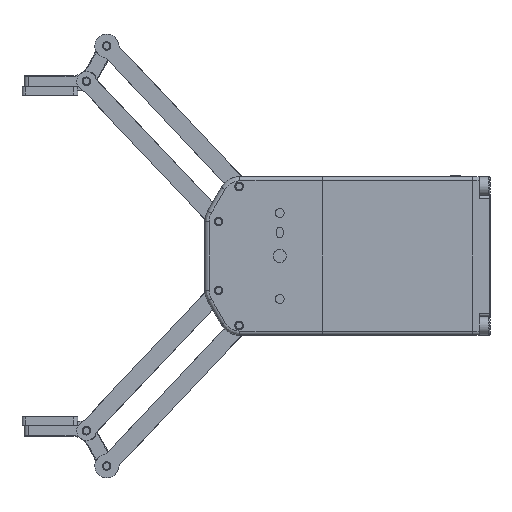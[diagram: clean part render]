
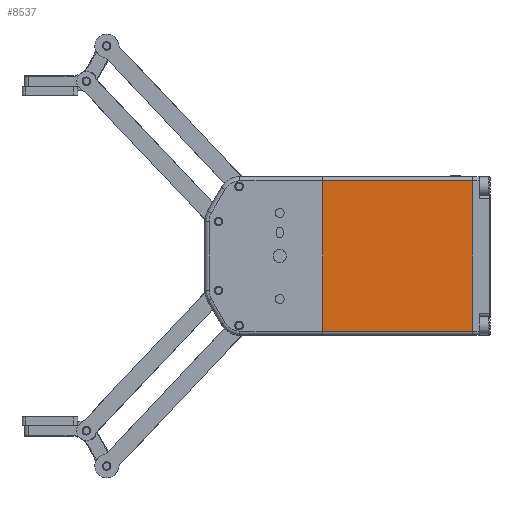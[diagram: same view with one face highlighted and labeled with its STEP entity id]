
A CAD part, front view. The second image highlights one B-rep face of the part: STEP entity #8537.
In plain terms, the highlighted planar face has unit normal (0, -1, 0).
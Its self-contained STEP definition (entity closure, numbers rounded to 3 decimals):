
#2263 = CARTESIAN_POINT ( 'NONE',  ( 70., -21., 0. ) ) ;
#2292 = VERTEX_POINT ( 'NONE', #10039 ) ;
#4316 = EDGE_CURVE ( 'NONE', #16643, #6487, #5674, .T. ) ;
#5162 = EDGE_CURVE ( 'NONE', #8696, #6487, #11826, .T. ) ;
#5674 = LINE ( 'NONE', #16185, #27308 ) ;
#5707 = CARTESIAN_POINT ( 'NONE',  ( 0., -21., 37. ) ) ;
#5743 = DIRECTION ( 'NONE',  ( -1., 0., 0. ) ) ;
#6487 = VERTEX_POINT ( 'NONE', #17975 ) ;
#7317 = CARTESIAN_POINT ( 'NONE',  ( 0., -21., -35. ) ) ;
#8086 = CARTESIAN_POINT ( 'NONE',  ( 0., -21., 35. ) ) ;
#8277 = EDGE_CURVE ( 'NONE', #8696, #2292, #10835, .T. ) ;
#8537 = ADVANCED_FACE ( 'NONE', ( #26709 ), #9843, .T. ) ;
#8696 = VERTEX_POINT ( 'NONE', #23259 ) ;
#9843 = PLANE ( 'NONE',  #22247 ) ;
#10039 = CARTESIAN_POINT ( 'NONE',  ( 70., -21., -35. ) ) ;
#10835 = LINE ( 'NONE', #2263, #16035 ) ;
#11205 = LINE ( 'NONE', #7317, #13401 ) ;
#11473 = DIRECTION ( 'NONE',  ( -1., 0., 0. ) ) ;
#11826 = LINE ( 'NONE', #8086, #14902 ) ;
#11919 = DIRECTION ( 'NONE',  ( 0., 0., -1. ) ) ;
#13401 = VECTOR ( 'NONE', #11473, 1000. ) ;
#14902 = VECTOR ( 'NONE', #5743, 1000. ) ;
#16035 = VECTOR ( 'NONE', #25507, 1000. ) ;
#16164 = ORIENTED_EDGE ( 'NONE', *, *, #4316, .F. ) ;
#16185 = CARTESIAN_POINT ( 'NONE',  ( 0., -21., 0. ) ) ;
#16643 = VERTEX_POINT ( 'NONE', #20709 ) ;
#17975 = CARTESIAN_POINT ( 'NONE',  ( 0., -21., 35. ) ) ;
#19958 = ORIENTED_EDGE ( 'NONE', *, *, #8277, .F. ) ;
#20245 = ORIENTED_EDGE ( 'NONE', *, *, #5162, .T. ) ;
#20489 = DIRECTION ( 'NONE',  ( 0., 0., 1. ) ) ;
#20709 = CARTESIAN_POINT ( 'NONE',  ( 0., -21., -35. ) ) ;
#21969 = ORIENTED_EDGE ( 'NONE', *, *, #25872, .F. ) ;
#22247 = AXIS2_PLACEMENT_3D ( 'NONE', #5707, #26298, #11919 ) ;
#23259 = CARTESIAN_POINT ( 'NONE',  ( 70., -21., 35. ) ) ;
#25507 = DIRECTION ( 'NONE',  ( 0., 0., -1. ) ) ;
#25872 = EDGE_CURVE ( 'NONE', #2292, #16643, #11205, .T. ) ;
#26298 = DIRECTION ( 'NONE',  ( 0., -1., 0. ) ) ;
#26563 = EDGE_LOOP ( 'NONE', ( #21969, #19958, #20245, #16164 ) ) ;
#26709 = FACE_OUTER_BOUND ( 'NONE', #26563, .T. ) ;
#27308 = VECTOR ( 'NONE', #20489, 1000. ) ;
